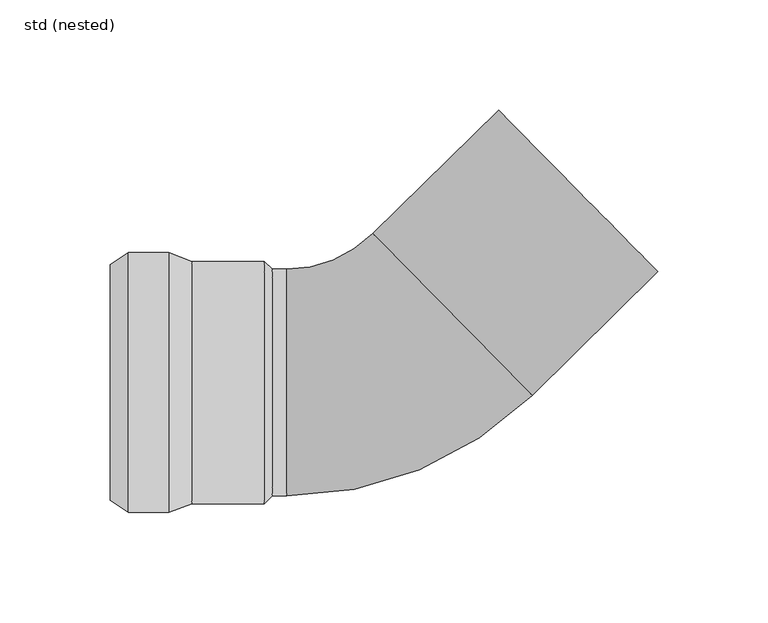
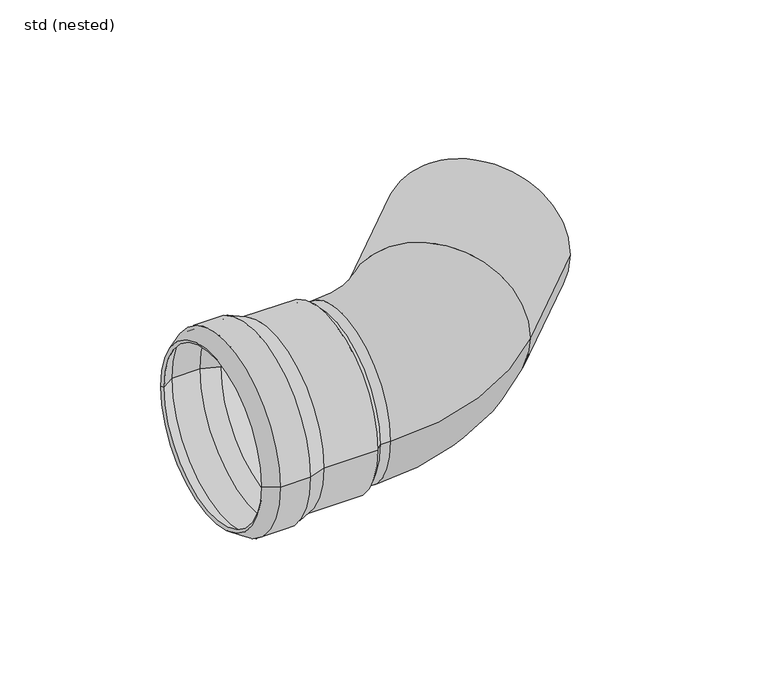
"""IFC4 building model written with IfcOpenShell, lengths in millimetres: pipe fitting geometry, ZZZ_do not use_PIF_ST_UN_GM-X pipe bend_ACO : std (nested)."""

from ifc_helpers import new_model, si_unit, point, frame, origin, place, context, project, spatial, polyline, circle_curve, ellipse_curve, trimmed, source, transform, mapped, element, save
from ifc_brep_helpers import plane_surface, cylinder_surface, revolved_surface, advanced_brep


def std_nested_2a42391e(model_context):
    return source(origin(), model_context, "Body", "AdvancedBrep", [
        advanced_brep(
        [(-97.5, 59.0, 0.0), (-97.5, -59.0, 0.0), (-115.7, -59.0, 0.0), (-115.7, 59.0, 0.0), (-87.0, 55.0, 0.0), (-87.0, -55.0, 0.0), (-124.0, -53.5, 0.0), (-124.0, 53.5, 0.0), (-54.0, 55.0, 0.0), (-54.0, -55.0, 0.0), (-50.5, 51.5, 0.0), (-50.5, -51.5, 0.0), (-54.0, 51.5, 0.0), (-54.0, -51.5, 0.0), (-87.3680513, 53.0, 0.0), (-87.3680513, -53.0, 0.0), (-54.0, -53.0, 0.0), (-54.0, 53.0, 0.0), (-97.8680513, 57.0, 0.0), (-97.8680513, -57.0, 0.0), (-115.0974883, 57.0, 0.0), (-115.0974883, -57.0, 0.0), (-122.8952393, 51.8328156, 0.0), (-122.8952393, -51.8328156, 0.0)],
        [
            (0, 1, circle_curve(frame((-97.5, 0.0, 0.0), z_axis=(-1.0, 0.0, 0.0), x_axis=(0.0, -1.0, 0.0)), 59.0)),
            (1, 2),
            (2, 3, circle_curve(frame((-115.7, 0.0, 0.0), z_axis=(1.0, 0.0, 0.0), x_axis=(0.0, -1.0, 0.0)), 59.0)),
            (3, 0),
            (1, 0, circle_curve(frame((-97.5, 0.0, 0.0), z_axis=(-1.0, 0.0, 0.0), x_axis=(0.0, -1.0, 0.0)), 59.0)),
            (3, 2, circle_curve(frame((-115.7, 0.0, 0.0), z_axis=(1.0, 0.0, 0.0), x_axis=(0.0, -1.0, 0.0)), 59.0)),
            (4, 5, circle_curve(frame((-87.0, 0.0, 0.0), z_axis=(-1.0, 0.0, 0.0), x_axis=(0.0, -1.0, 0.0)), 55.0)),
            (5, 1),
            (0, 4),
            (5, 4, circle_curve(frame((-87.0, 0.0, 0.0), z_axis=(-1.0, 0.0, 0.0), x_axis=(0.0, -1.0, 0.0)), 55.0)),
            (2, 6),
            (6, 7, circle_curve(frame((-124.0, 0.0, 0.0), z_axis=(1.0, 0.0, 0.0), x_axis=(0.0, -1.0, 0.0)), 53.5)),
            (7, 3),
            (7, 6, circle_curve(frame((-124.0, 0.0, 0.0), z_axis=(1.0, 0.0, 0.0), x_axis=(0.0, -1.0, 0.0)), 53.5)),
            (8, 9, circle_curve(frame((-54.0, 0.0, 0.0), z_axis=(-1.0, 0.0, 0.0), x_axis=(0.0, -1.0, 0.0)), 55.0)),
            (9, 5),
            (4, 8),
            (9, 8, circle_curve(frame((-54.0, 0.0, 0.0), z_axis=(-1.0, 0.0, 0.0), x_axis=(0.0, -1.0, 0.0)), 55.0)),
            (10, 11, circle_curve(frame((-50.5, 0.0, 0.0), z_axis=(-1.0, 0.0, 0.0), x_axis=(0.0, -1.0, 0.0)), 51.5)),
            (11, 9),
            (8, 10),
            (11, 10, circle_curve(frame((-50.5, 0.0, 0.0), z_axis=(-1.0, 0.0, 0.0), x_axis=(0.0, -1.0, 0.0)), 51.5)),
            (12, 13, circle_curve(frame((-54.0, 0.0, 0.0), z_axis=(-1.0, 0.0, 0.0), x_axis=(0.0, -1.0, 0.0)), 51.5)),
            (13, 11),
            (10, 12),
            (13, 12, circle_curve(frame((-54.0, 0.0, 0.0), z_axis=(-1.0, 0.0, 0.0), x_axis=(0.0, -1.0, 0.0)), 51.5)),
            (14, 15, circle_curve(frame((-87.3680513, 0.0, 0.0), z_axis=(-1.0, 0.0, 0.0), x_axis=(0.0, -1.0, 0.0)), 53.0)),
            (15, 16),
            (16, 17, circle_curve(frame((-54.0, 0.0, 0.0), z_axis=(1.0, 0.0, 0.0), x_axis=(0.0, -1.0, 0.0)), 53.0)),
            (17, 14),
            (15, 14, circle_curve(frame((-87.3680513, 0.0, 0.0), z_axis=(-1.0, 0.0, 0.0), x_axis=(0.0, -1.0, 0.0)), 53.0)),
            (17, 16, circle_curve(frame((-54.0, 0.0, 0.0), z_axis=(1.0, 0.0, 0.0), x_axis=(0.0, -1.0, 0.0)), 53.0)),
            (18, 19, circle_curve(frame((-97.8680513, 0.0, 0.0), z_axis=(-1.0, 0.0, 0.0), x_axis=(0.0, -1.0, 0.0)), 57.0)),
            (19, 15),
            (14, 18),
            (19, 18, circle_curve(frame((-97.8680513, 0.0, 0.0), z_axis=(-1.0, 0.0, 0.0), x_axis=(0.0, -1.0, 0.0)), 57.0)),
            (20, 21, circle_curve(frame((-115.0974883, 0.0, 0.0), z_axis=(-1.0, 0.0, 0.0), x_axis=(0.0, -1.0, 0.0)), 57.0)),
            (21, 19),
            (18, 20),
            (21, 20, circle_curve(frame((-115.0974883, 0.0, 0.0), z_axis=(-1.0, 0.0, 0.0), x_axis=(0.0, -1.0, 0.0)), 57.0)),
            (22, 23, circle_curve(frame((-122.8952393, 0.0, 0.0), z_axis=(-1.0, 0.0, 0.0), x_axis=(0.0, -1.0, 0.0)), 51.8328156)),
            (23, 21),
            (20, 22),
            (23, 22, circle_curve(frame((-122.8952393, 0.0, 0.0), z_axis=(-1.0, 0.0, 0.0), x_axis=(0.0, -1.0, 0.0)), 51.8328156)),
            (6, 23),
            (22, 7),
            (16, 13),
            (12, 17),
        ],
        [
            cylinder_surface(frame((-120.6444117, 0.0, 0.0), z_axis=(1.0, 0.0, 0.0), x_axis=(0.0, -1.0, 0.0)), 59.0),
            revolved_surface(polyline([(-97.5, -59.0, 0.0), (-87.0, -55.0, 0.0)]), (-120.6444117, 0.0, 0.0), (1.0, 0.0, 0.0)),
            revolved_surface(polyline([(-124.0, -53.5, 0.0), (-115.7, -59.0, 0.0)]), (-120.6444117, 0.0, 0.0), (1.0, 0.0, 0.0)),
            cylinder_surface(frame((-120.6444117, 0.0, 0.0), z_axis=(1.0, 0.0, 0.0), x_axis=(0.0, -1.0, 0.0)), 55.0),
            revolved_surface(polyline([(-54.0, -55.0, 0.0), (-50.5, -51.5, 0.0)]), (-120.6444117, 0.0, 0.0), (1.0, 0.0, 0.0)),
            revolved_surface(polyline([(-50.5, -51.5, 0.0), (-54.0, -51.5, 0.0)]), (-120.6444117, 0.0, 0.0), (1.0, 0.0, 0.0)),
            revolved_surface(polyline([(-54.0, -53.0, 0.0), (-87.3680513, -53.0, 0.0)]), (-120.6444117, 0.0, 0.0), (1.0, 0.0, 0.0)),
            revolved_surface(polyline([(-87.3680513, -53.0, 0.0), (-97.8680513, -57.0, 0.0)]), (-120.6444117, 0.0, 0.0), (1.0, 0.0, 0.0)),
            revolved_surface(polyline([(-97.8680513, -57.0, 0.0), (-115.0974883, -57.0, 0.0)]), (-120.6444117, 0.0, 0.0), (1.0, 0.0, 0.0)),
            revolved_surface(polyline([(-115.0974883, -57.0, 0.0), (-122.8952393, -51.8328156, 0.0)]), (-120.6444117, 0.0, 0.0), (1.0, 0.0, 0.0)),
            revolved_surface(polyline([(-122.8952393, -51.8328156, 0.0), (-124.0, -53.5, 0.0)]), (-120.6444117, 0.0, 0.0), (1.0, 0.0, 0.0)),
            plane_surface(frame((-54.0, 0.0, 0.0), z_axis=(-1.0, 0.0, 0.0), x_axis=(0.0, -1.0, 0.0))),
        ],
        [
            (0, [[1, 2, 3, 4]]),
            (0, [[5, -4, 6, -2]]),
            (1, [[7, 8, -1, 9]]),
            (1, [[10, -9, -5, -8]]),
            (2, [[-3, 11, 12, 13]]),
            (2, [[-6, -13, 14, -11]]),
            (3, [[15, 16, -7, 17]]),
            (3, [[18, -17, -10, -16]]),
            (4, [[19, 20, -15, 21]]),
            (4, [[22, -21, -18, -20]]),
            (5, [[23, 24, -19, 25]]),
            (5, [[26, -25, -22, -24]]),
            (6, [[27, 28, 29, 30]]),
            (6, [[31, -30, 32, -28]]),
            (7, [[33, 34, -27, 35]]),
            (7, [[36, -35, -31, -34]]),
            (8, [[37, 38, -33, 39]]),
            (8, [[40, -39, -36, -38]]),
            (9, [[41, 42, -37, 43]]),
            (9, [[44, -43, -40, -42]]),
            (10, [[-12, 45, -41, 46]]),
            (10, [[-14, -46, -44, -45]]),
            (11, [[-29, 47, -23, 48]]),
            (11, [[-32, -48, -26, -47]]),
        ],
    ),
        advanced_brep(
        [(-4.7967292, 67.5665701, 0.0), (-44.0, 51.5, 0.0), (-44.0, -51.5, 0.0), (67.4870273, -5.8095742, 0.0), (31.345149, 30.8784979, 51.5), (31.345149, 30.8784979, -51.5), (-54.0, -51.5, 0.0), (-54.0, 51.5, 0.0), (124.4782073, 50.3331492, 0.0), (52.1944508, 123.7092935, 0.0)],
        [
            (0, 1, circle_curve(frame((-44.0, 107.3623, 0.0), z_axis=(0.0, 0.0, -1.0), x_axis=(0.0, -1.0, 0.0)), 55.8623)),
            (1, 2, circle_curve(frame((-44.0, 0.0, 0.0), z_axis=(1.0, 0.0, 0.0), x_axis=(0.0, 1.0, 0.0)), 51.5)),
            (2, 3, circle_curve(frame((-44.0, 107.3623, 0.0), z_axis=(0.0, 0.0, 1.0), x_axis=(0.0, -1.0, 0.0)), 158.8623)),
            (3, 4, circle_curve(frame((31.345149, 30.8784979, 0.0), z_axis=(-0.712389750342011, -0.7017840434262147, 0.0), x_axis=(-0.7017840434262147, 0.712389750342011, 0.0)), 51.5)),
            (4, 0, circle_curve(frame((31.345149, 30.8784979, 0.0), z_axis=(-0.712389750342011, -0.7017840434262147, 0.0), x_axis=(-0.7017840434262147, 0.712389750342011, 0.0)), 51.5)),
            (0, 5, circle_curve(frame((31.345149, 30.8784979, 0.0), z_axis=(-0.712389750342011, -0.7017840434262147, 0.0), x_axis=(-0.7017840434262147, 0.712389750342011, 0.0)), 51.5)),
            (5, 3, circle_curve(frame((31.345149, 30.8784979, 0.0), z_axis=(-0.7123897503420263, -0.7017840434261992, 0.0), x_axis=(-0.7017840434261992, 0.7123897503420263, 0.0)), 51.5)),
            (2, 1, circle_curve(frame((-44.0, 0.0, 0.0), z_axis=(1.0, 0.0, 0.0), x_axis=(0.0, 1.0, 0.0)), 51.5)),
            (6, 7, circle_curve(frame((-54.0, 0.0, 0.0), z_axis=(-1.0, 0.0, 0.0), x_axis=(0.0, 1.0, 0.0)), 51.5)),
            (7, 6, circle_curve(frame((-54.0, 0.0, 0.0), z_axis=(-1.0, 0.0, 0.0), x_axis=(0.0, 1.0, 0.0)), 51.5)),
            (7, 1),
            (2, 6),
            (8, 9, circle_curve(frame((88.336329, 87.0212214, 0.0), z_axis=(0.7123897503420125, 0.7017840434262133, 0.0), x_axis=(-0.7017840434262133, 0.7123897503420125, 0.0)), 51.5)),
            (9, 8, circle_curve(frame((88.336329, 87.0212214, 0.0), z_axis=(0.7123897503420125, 0.7017840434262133, 0.0), x_axis=(-0.7017840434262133, 0.7123897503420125, 0.0)), 51.5)),
            (9, 0),
            (3, 8),
        ],
        [
            revolved_surface(trimmed(ellipse_curve(frame((-44.0, 0.0, 0.0), z_axis=(-1.0, 0.0, 0.0), x_axis=(0.0, 1.0, 0.0)), 51.5, 51.5), [point((-44.0, -51.5, 0.0))], [point((-44.0, 51.5, 0.0))], True, "CARTESIAN"), (-44.0, 107.3623, 0.0), (0.0, 0.0, 1.0)),
            revolved_surface(trimmed(ellipse_curve(frame((-44.0, 0.0, 0.0), z_axis=(-1.0, 0.0, 0.0), x_axis=(0.0, 1.0, 0.0)), 51.5, 51.5), [point((-44.0, 51.5, 0.0))], [point((-44.0, -51.5, 0.0))], True, "CARTESIAN"), (-44.0, 107.3623, 0.0), (0.0, 0.0, 1.0)),
            plane_surface(frame((-54.0, 51.5, 0.0), z_axis=(-1.0, 0.0, 0.0), x_axis=(0.0, 0.0, -1.0))),
            cylinder_surface(frame((-54.0, 0.0, 0.0), z_axis=(1.0, 0.0, 0.0), x_axis=(0.0, 1.0, 0.0)), 51.5),
            plane_surface(frame((88.336329, 87.0212214, 0.0), z_axis=(0.7123897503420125, 0.7017840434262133, 0.0), x_axis=(0.0, 0.0, 1.0))),
            cylinder_surface(frame((31.345149, 30.8784979, 0.0), z_axis=(-0.7123897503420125, -0.7017840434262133, 0.0), x_axis=(-0.7017840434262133, 0.7123897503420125, 0.0)), 51.5),
        ],
        [
            (0, [[1, 2, 3, 4, 5]]),
            (1, [[-1, 6, 7, -3, 8]]),
            (2, [[9, 10]]),
            (3, [[-10, 11, -8, 12]]),
            (3, [[-9, -12, -2, -11]]),
            (4, [[13, 14]]),
            (5, [[-14, 15, -5, -4, 16]]),
            (5, [[-13, -16, -7, -6, -15]]),
        ],
    ),
    ])


if __name__ == "__main__":
    model = new_model("IFC4")
    model_context = context("Model", 3, world=origin())
    ifc_project = project(units=[si_unit("LENGTHUNIT", "METRE", prefix="MILLI")], contexts=[model_context])
    site = spatial("IfcSite", under=ifc_project)
    building = spatial("IfcBuilding", under=site)
    placement = place(None, origin())
    std_nested_shape = std_nested_2a42391e(model_context)
    element("IfcPipeFitting", 1, ObjectType="ZZZ_do not use_PIF_ST_UN_GM-X pipe bend_ACO : std (nested)", at=placement, inside=building, context=model_context, shape_type="MappedRepresentation", body=[
        mapped(std_nested_shape, transform((0.0, 0.0, 0.0), x_axis=(1.0, 0.0, 0.0), y_axis=(0.0, 1.0, 0.0), z_axis=(0.0, 0.0, 1.0))),
    ])
    save(model, "model.ifc")
